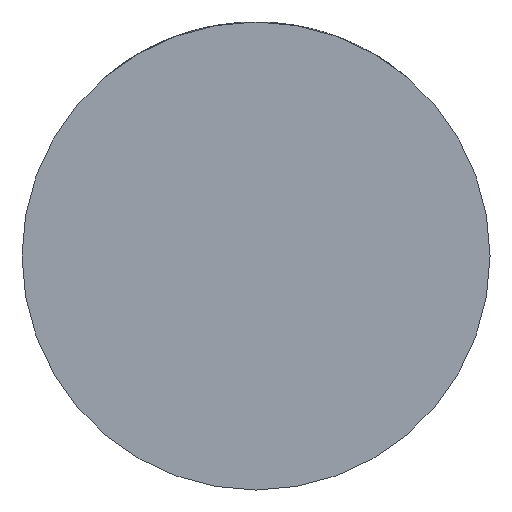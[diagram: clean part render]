
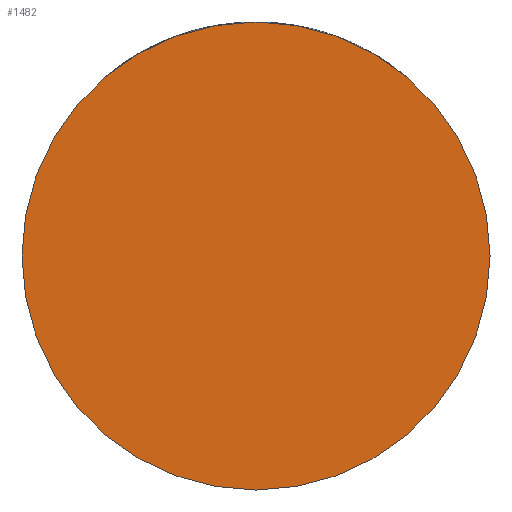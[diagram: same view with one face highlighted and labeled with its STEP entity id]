
A CAD part, front view. The second image highlights one B-rep face of the part: STEP entity #1482.
In plain terms, the highlighted planar face has unit normal (0, -1, 0).
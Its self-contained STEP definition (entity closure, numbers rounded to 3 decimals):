
#257 = VERTEX_POINT ( 'NONE', #736 ) ;
#272 = EDGE_CURVE ( 'NONE', #2269, #257, #2539, .T. ) ;
#341 = DIRECTION ( 'NONE',  ( 0., -1., 0. ) ) ;
#684 = CARTESIAN_POINT ( 'NONE',  ( -39., -36., 0. ) ) ;
#724 = AXIS2_PLACEMENT_3D ( 'NONE', #3493, #341, #2044 ) ;
#736 = CARTESIAN_POINT ( 'NONE',  ( 39., -36., 0. ) ) ;
#1072 = EDGE_CURVE ( 'NONE', #257, #2269, #3779, .T. ) ;
#1226 = DIRECTION ( 'NONE',  ( 1., 0., 0. ) ) ;
#1252 = DIRECTION ( 'NONE',  ( 0., -1., 0. ) ) ;
#1482 = ADVANCED_FACE ( 'NONE', ( #4506 ), #2114, .T. ) ;
#1915 = CARTESIAN_POINT ( 'NONE',  ( 0., -36., 0. ) ) ;
#2044 = DIRECTION ( 'NONE',  ( 1., 0., 0. ) ) ;
#2092 = CARTESIAN_POINT ( 'NONE',  ( 0., -36., 0. ) ) ;
#2114 = PLANE ( 'NONE',  #724 ) ;
#2190 = AXIS2_PLACEMENT_3D ( 'NONE', #1915, #1252, #1226 ) ;
#2269 = VERTEX_POINT ( 'NONE', #684 ) ;
#2539 = CIRCLE ( 'NONE', #4080, 39. ) ;
#2860 = DIRECTION ( 'NONE',  ( 0., -1., 0. ) ) ;
#2865 = ORIENTED_EDGE ( 'NONE', *, *, #1072, .T. ) ;
#3493 = CARTESIAN_POINT ( 'NONE',  ( 0., -36., 0. ) ) ;
#3779 = CIRCLE ( 'NONE', #2190, 39. ) ;
#3787 = DIRECTION ( 'NONE',  ( 1., 0., 0. ) ) ;
#3801 = ORIENTED_EDGE ( 'NONE', *, *, #272, .T. ) ;
#4080 = AXIS2_PLACEMENT_3D ( 'NONE', #2092, #2860, #3787 ) ;
#4192 = EDGE_LOOP ( 'NONE', ( #3801, #2865 ) ) ;
#4506 = FACE_OUTER_BOUND ( 'NONE', #4192, .T. ) ;
